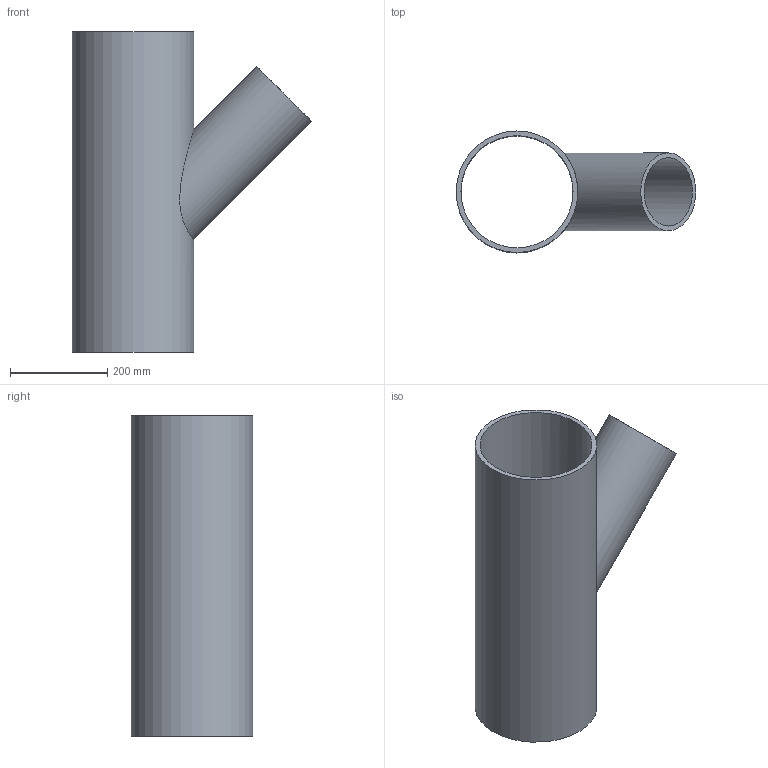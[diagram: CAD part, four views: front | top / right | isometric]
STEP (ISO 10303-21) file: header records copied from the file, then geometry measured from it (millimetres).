
FILE_DESCRIPTION(/* description */ (''),/* implementation_level */ '2;1');
FILE_NAME(/* name */ 'C:\Planerdaten\Export PLA\PRO_101557\stp\371145.stp',/* time_stamp */ '2021-09-30T15:09:24+02:00',/* author */ ('JANAN'),/* organization */ (''),/* preprocessor_version */ 'ST-DEVELOPER v16.13',/* originating_system */ 'Autodesk Inventor 2018',/* authorisation */ '');
FILE_SCHEMA (('AUTOMOTIVE_DESIGN { 1 0 10303 214 3 1 1 }'));
Length unit declared in the file: millimetre
Products named in the file (1): tmp699C.tmp
Bounding box: 492.7 x 250 x 660 mm (x, y, z)
Volume: 5892689.6 mm3; surface area: 1234208.4 mm2
Topology: 1 solids, 1 shells, 7 faces, 17 edges, 12 vertices
Faces by surface type: cylinder 4, plane 3
Full cylindrical faces by diameter (mm): 140.6 x1, 160 x1, 230.6 x1, 250 x1
Entity records: 348 total; most frequent: CARTESIAN_POINT 170, DIRECTION 28, EDGE_LOOP 16, ORIENTED_EDGE 16, AXIS2_PLACEMENT_3D 14, FACE_BOUND 9, VERTEX_POINT 8, EDGE_CURVE 8
